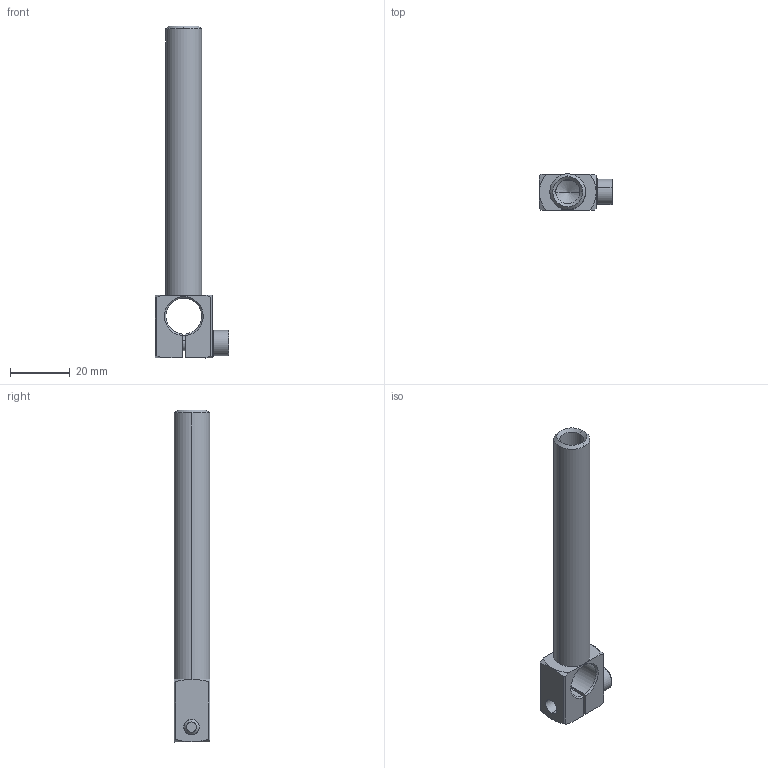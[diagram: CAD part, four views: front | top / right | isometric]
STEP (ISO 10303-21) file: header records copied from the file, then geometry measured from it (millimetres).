
FILE_DESCRIPTION (( 'STEP AP214' ), '1' );
FILE_NAME ('SCA1-1212L90.STEP', '2019-11-07T05:37:31', ( '微软用户' ), ( '微软中国' ), 'SwSTEP 2.0', 'SolidWorks 2016', '' );
FILE_SCHEMA (( 'AUTOMOTIVE_DESIGN' ));
Length unit declared in the file: millimetre
Products named in the file (1): SCA1-1212L90
Bounding box: 24.5 x 12 x 111 mm (x, y, z)
Volume: 9220 mm3; surface area: 8482.5 mm2
Topology: 3 solids, 3 shells, 254 faces, 727 edges, 477 vertices
Faces by surface type: plane 216, cone 19, cylinder 17, bspline 2
Entity records: 11337 total; most frequent: CARTESIAN_POINT 1692, ORIENTED_EDGE 1450, DIRECTION 1441, EDGE_CURVE 725, AXIS2_PLACEMENT_3D 495, VERTEX_POINT 477, VECTOR 451, LINE 451
